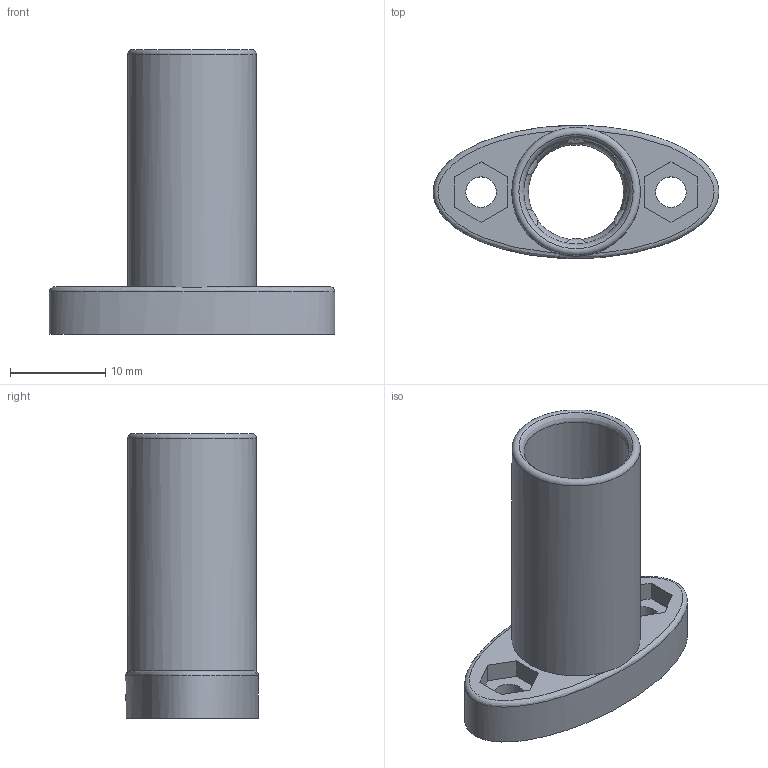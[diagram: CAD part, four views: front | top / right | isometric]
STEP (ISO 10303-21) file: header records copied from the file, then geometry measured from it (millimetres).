
FILE_DESCRIPTION(/* description */ (''),/* implementation_level */ '2;1');
FILE_NAME(/* name */ 'Ejection Charge Holder 2ml long.stp',/* time_stamp */ '2026-05-09T22:25:04+02:00',/* author */ ('charl'),/* organization */ (''),/* preprocessor_version */ 'ST-DEVELOPER v20.1',/* originating_system */ 'Autodesk Inventor 2027',/* authorisation */ '');
FILE_SCHEMA (('AUTOMOTIVE_DESIGN { 1 0 10303 214 3 1 1 }'));
Length unit declared in the file: millimetre
Products named in the file (1): Ejection Charge Holder 2ml long
Bounding box: 30 x 13.98 x 29.93 mm (x, y, z)
Volume: 2351.3 mm3; surface area: 3047.2 mm2
Topology: 1 solids, 1 shells, 158 faces, 413 edges, 264 vertices
Faces by surface type: plane 64, bspline 59, cylinder 31, torus 4
Full cylindrical faces by diameter (mm): 3.2 x2, 10 x1, 11 x1, 13.5 x1
Entity records: 5684 total; most frequent: CARTESIAN_POINT 2091, ORIENTED_EDGE 826, DIRECTION 589, EDGE_CURVE 413, VERTEX_POINT 264, LINE 203, VECTOR 203, AXIS2_PLACEMENT_3D 193
